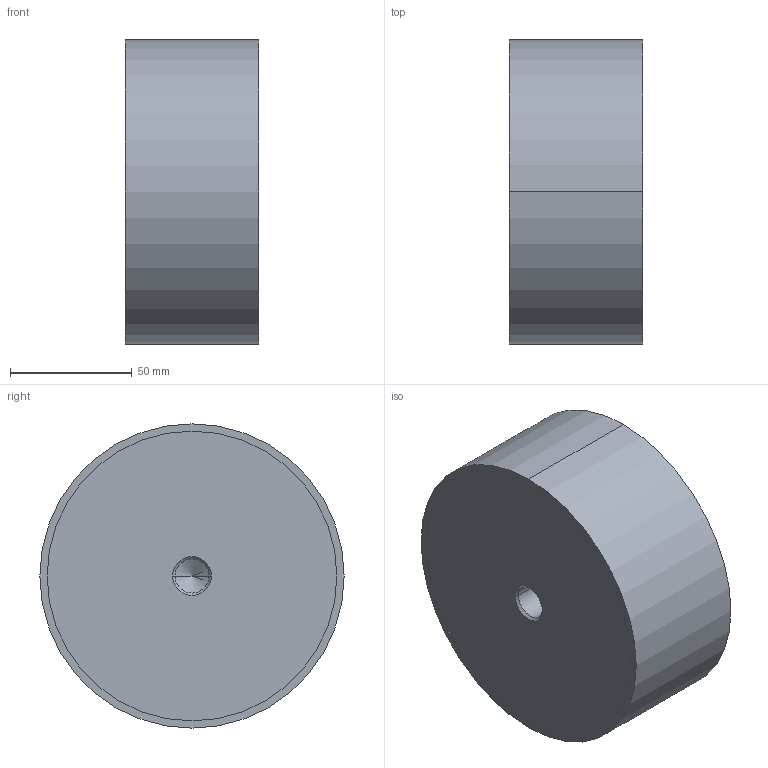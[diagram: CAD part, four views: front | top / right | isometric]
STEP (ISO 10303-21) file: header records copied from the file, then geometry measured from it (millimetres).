
FILE_DESCRIPTION (( 'STEP AP214' ), '1' );
FILE_NAME ('451-125-55-M16-EE-40.step', '2020-03-05T09:09:47', ( '' ), ( '' ), 'SwSTEP 2.0', 'SolidWorks 2019', '' );
FILE_SCHEMA (( 'AUTOMOTIVE_DESIGN' ));
Length unit declared in the file: millimetre
Products named in the file (1): 451-125-55-M16-EE-40
Bounding box: 55 x 125 x 125 mm (x, y, z)
Volume: 669329.4 mm3; surface area: 47559 mm2
Topology: 1 solids, 1 shells, 22 faces, 46 edges, 26 vertices
Faces by surface type: cylinder 10, cone 8, plane 4
Entity records: 684 total; most frequent: DIRECTION 112, CARTESIAN_POINT 91, ORIENTED_EDGE 84, AXIS2_PLACEMENT_3D 47, EDGE_CURVE 42, VERTEX_POINT 26, EDGE_LOOP 26, CIRCLE 24
